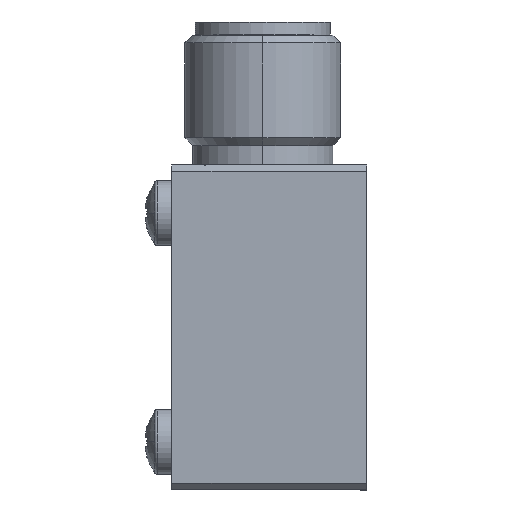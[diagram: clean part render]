
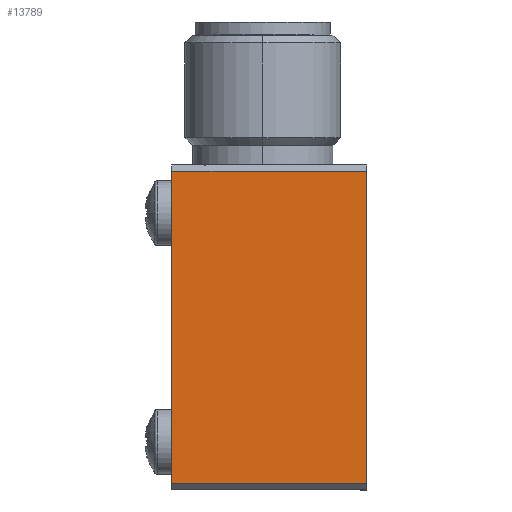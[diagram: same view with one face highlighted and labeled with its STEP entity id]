
A CAD part, left-side view. The second image highlights one B-rep face of the part: STEP entity #13789.
In plain terms, the highlighted planar face has unit normal (-1, 0, 0).
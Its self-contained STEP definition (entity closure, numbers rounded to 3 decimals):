
#424 = EDGE_CURVE ( 'NONE', #3931, #4729, #14363, .T. ) ;
#554 = DIRECTION ( 'NONE',  ( 0., -1., 0. ) ) ;
#949 = CARTESIAN_POINT ( 'NONE',  ( -48., 15., -12.5 ) ) ;
#1807 = ORIENTED_EDGE ( 'NONE', *, *, #9067, .T. ) ;
#2224 = VERTEX_POINT ( 'NONE', #6669 ) ;
#2254 = ORIENTED_EDGE ( 'NONE', *, *, #424, .T. ) ;
#3931 = VERTEX_POINT ( 'NONE', #6301 ) ;
#4122 = LINE ( 'NONE', #949, #13547 ) ;
#4729 = VERTEX_POINT ( 'NONE', #6547 ) ;
#5069 = ORIENTED_EDGE ( 'NONE', *, *, #7861, .T. ) ;
#5172 = CARTESIAN_POINT ( 'NONE',  ( -48., 15., -12.5 ) ) ;
#6233 = DIRECTION ( 'NONE',  ( 1., 0., 0. ) ) ;
#6301 = CARTESIAN_POINT ( 'NONE',  ( -48., 15., -12. ) ) ;
#6547 = CARTESIAN_POINT ( 'NONE',  ( -48., 0., -12. ) ) ;
#6669 = CARTESIAN_POINT ( 'NONE',  ( -48., 15., 12. ) ) ;
#6995 = VECTOR ( 'NONE', #7267, 1000. ) ;
#7267 = DIRECTION ( 'NONE',  ( 0., 1., 0. ) ) ;
#7529 = FACE_OUTER_BOUND ( 'NONE', #13249, .T. ) ;
#7731 = DIRECTION ( 'NONE',  ( 0., 0., 1. ) ) ;
#7757 = EDGE_CURVE ( 'NONE', #3931, #2224, #4122, .T. ) ;
#7861 = EDGE_CURVE ( 'NONE', #13526, #2224, #9487, .T. ) ;
#8589 = CARTESIAN_POINT ( 'NONE',  ( -48., 15., -12. ) ) ;
#8724 = LINE ( 'NONE', #9034, #9353 ) ;
#9034 = CARTESIAN_POINT ( 'NONE',  ( -48., 0., -12.5 ) ) ;
#9067 = EDGE_CURVE ( 'NONE', #4729, #13526, #8724, .T. ) ;
#9353 = VECTOR ( 'NONE', #7731, 1000. ) ;
#9487 = LINE ( 'NONE', #11745, #6995 ) ;
#9802 = DIRECTION ( 'NONE',  ( 0., 0., -1. ) ) ;
#10941 = PLANE ( 'NONE',  #11409 ) ;
#11409 = AXIS2_PLACEMENT_3D ( 'NONE', #5172, #6233, #9802 ) ;
#11417 = VECTOR ( 'NONE', #554, 1000. ) ;
#11745 = CARTESIAN_POINT ( 'NONE',  ( -48., 15., 12. ) ) ;
#11884 = CARTESIAN_POINT ( 'NONE',  ( -48., 0., 12. ) ) ;
#12175 = ORIENTED_EDGE ( 'NONE', *, *, #7757, .F. ) ;
#12305 = DIRECTION ( 'NONE',  ( 0., 0., 1. ) ) ;
#13249 = EDGE_LOOP ( 'NONE', ( #1807, #5069, #12175, #2254 ) ) ;
#13526 = VERTEX_POINT ( 'NONE', #11884 ) ;
#13547 = VECTOR ( 'NONE', #12305, 1000. ) ;
#13789 = ADVANCED_FACE ( 'NONE', ( #7529 ), #10941, .F. ) ;
#14363 = LINE ( 'NONE', #8589, #11417 ) ;
